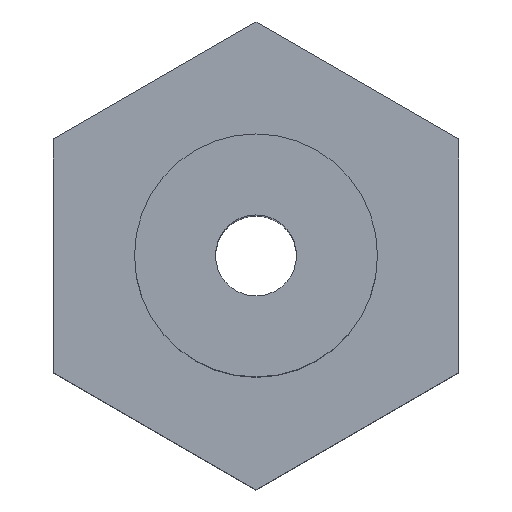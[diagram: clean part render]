
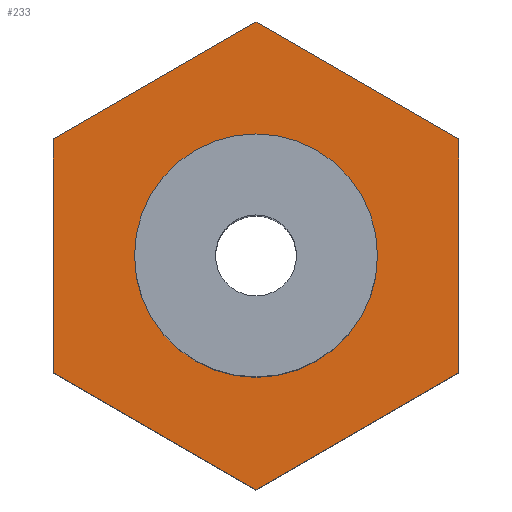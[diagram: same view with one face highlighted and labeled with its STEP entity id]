
A CAD part, top view. The second image highlights one B-rep face of the part: STEP entity #233.
In plain terms, the highlighted planar face has unit normal (0, 0, 1).
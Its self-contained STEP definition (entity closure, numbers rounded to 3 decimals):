
#14 = LINE ( 'NONE', #609, #999 ) ;
#17 = DIRECTION ( 'NONE',  ( 0., -1., 0. ) ) ;
#38 = VERTEX_POINT ( 'NONE', #834 ) ;
#46 = DIRECTION ( 'NONE',  ( 0., 0., 1. ) ) ;
#52 = EDGE_CURVE ( 'NONE', #430, #371, #283, .T. ) ;
#64 = VECTOR ( 'NONE', #951, 1000. ) ;
#79 = EDGE_CURVE ( 'NONE', #546, #872, #506, .T. ) ;
#116 = CARTESIAN_POINT ( 'NONE',  ( 0., 0., 0. ) ) ;
#152 = CARTESIAN_POINT ( 'NONE',  ( 0., -2.887, 0. ) ) ;
#187 = VERTEX_POINT ( 'NONE', #905 ) ;
#197 = EDGE_LOOP ( 'NONE', ( #800, #1024, #604, #610, #615, #794 ) ) ;
#233 = ADVANCED_FACE ( 'NONE', ( #1194, #646 ), #421, .T. ) ;
#236 = ORIENTED_EDGE ( 'NONE', *, *, #755, .F. ) ;
#238 = CARTESIAN_POINT ( 'NONE',  ( 2.5, 1.443, 0. ) ) ;
#244 = EDGE_LOOP ( 'NONE', ( #769, #236 ) ) ;
#283 = LINE ( 'NONE', #633, #795 ) ;
#298 = VECTOR ( 'NONE', #600, 1000. ) ;
#335 = DIRECTION ( 'NONE',  ( 0., -1., 0. ) ) ;
#364 = EDGE_CURVE ( 'NONE', #872, #38, #523, .T. ) ;
#371 = VERTEX_POINT ( 'NONE', #726 ) ;
#384 = CARTESIAN_POINT ( 'NONE',  ( -2.5, 1.443, 0. ) ) ;
#399 = CARTESIAN_POINT ( 'NONE',  ( 0., -2.887, 0. ) ) ;
#421 = PLANE ( 'NONE',  #1016 ) ;
#430 = VERTEX_POINT ( 'NONE', #688 ) ;
#501 = CIRCLE ( 'NONE', #1086, 1.5 ) ;
#506 = LINE ( 'NONE', #915, #987 ) ;
#507 = DIRECTION ( 'NONE',  ( 0., 1., 0. ) ) ;
#520 = EDGE_CURVE ( 'NONE', #38, #803, #14, .T. ) ;
#523 = LINE ( 'NONE', #152, #1035 ) ;
#524 = CARTESIAN_POINT ( 'NONE',  ( 0., 0., 0. ) ) ;
#546 = VERTEX_POINT ( 'NONE', #678 ) ;
#600 = DIRECTION ( 'NONE',  ( -0.866, 0.5, 0. ) ) ;
#604 = ORIENTED_EDGE ( 'NONE', *, *, #960, .T. ) ;
#609 = CARTESIAN_POINT ( 'NONE',  ( 2.5, -1.443, 0. ) ) ;
#610 = ORIENTED_EDGE ( 'NONE', *, *, #52, .T. ) ;
#612 = DIRECTION ( 'NONE',  ( 1., 0., 0. ) ) ;
#615 = ORIENTED_EDGE ( 'NONE', *, *, #706, .T. ) ;
#633 = CARTESIAN_POINT ( 'NONE',  ( 0., 2.887, 0. ) ) ;
#646 = FACE_BOUND ( 'NONE', #244, .T. ) ;
#647 = EDGE_CURVE ( 'NONE', #187, #958, #656, .T. ) ;
#656 = CIRCLE ( 'NONE', #720, 1.5 ) ;
#672 = DIRECTION ( 'NONE',  ( 0.866, 0.5, 0. ) ) ;
#678 = CARTESIAN_POINT ( 'NONE',  ( -2.5, -1.443, 0. ) ) ;
#680 = DIRECTION ( 'NONE',  ( 0., 0., 1. ) ) ;
#688 = CARTESIAN_POINT ( 'NONE',  ( 0., 2.887, 0. ) ) ;
#706 = EDGE_CURVE ( 'NONE', #371, #546, #825, .T. ) ;
#720 = AXIS2_PLACEMENT_3D ( 'NONE', #116, #680, #17 ) ;
#726 = CARTESIAN_POINT ( 'NONE',  ( -2.5, 1.443, 0. ) ) ;
#755 = EDGE_CURVE ( 'NONE', #958, #187, #501, .T. ) ;
#769 = ORIENTED_EDGE ( 'NONE', *, *, #647, .F. ) ;
#792 = CARTESIAN_POINT ( 'NONE',  ( 0., 1.5, 0. ) ) ;
#794 = ORIENTED_EDGE ( 'NONE', *, *, #79, .T. ) ;
#795 = VECTOR ( 'NONE', #1217, 1000. ) ;
#800 = ORIENTED_EDGE ( 'NONE', *, *, #364, .T. ) ;
#803 = VERTEX_POINT ( 'NONE', #238 ) ;
#805 = CARTESIAN_POINT ( 'NONE',  ( 0., 0., 0. ) ) ;
#825 = LINE ( 'NONE', #384, #64 ) ;
#826 = DIRECTION ( 'NONE',  ( 0.866, -0.5, 0. ) ) ;
#834 = CARTESIAN_POINT ( 'NONE',  ( 2.5, -1.443, 0. ) ) ;
#872 = VERTEX_POINT ( 'NONE', #399 ) ;
#905 = CARTESIAN_POINT ( 'NONE',  ( 0., -1.5, 0. ) ) ;
#915 = CARTESIAN_POINT ( 'NONE',  ( -2.5, -1.443, 0. ) ) ;
#951 = DIRECTION ( 'NONE',  ( 0., -1., 0. ) ) ;
#958 = VERTEX_POINT ( 'NONE', #792 ) ;
#960 = EDGE_CURVE ( 'NONE', #803, #430, #1106, .T. ) ;
#987 = VECTOR ( 'NONE', #826, 1000. ) ;
#999 = VECTOR ( 'NONE', #507, 1000. ) ;
#1016 = AXIS2_PLACEMENT_3D ( 'NONE', #805, #46, #612 ) ;
#1024 = ORIENTED_EDGE ( 'NONE', *, *, #520, .T. ) ;
#1035 = VECTOR ( 'NONE', #672, 1000. ) ;
#1086 = AXIS2_PLACEMENT_3D ( 'NONE', #524, #1207, #335 ) ;
#1091 = CARTESIAN_POINT ( 'NONE',  ( 2.5, 1.443, 0. ) ) ;
#1106 = LINE ( 'NONE', #1091, #298 ) ;
#1194 = FACE_OUTER_BOUND ( 'NONE', #197, .T. ) ;
#1207 = DIRECTION ( 'NONE',  ( 0., 0., 1. ) ) ;
#1217 = DIRECTION ( 'NONE',  ( -0.866, -0.5, 0. ) ) ;
